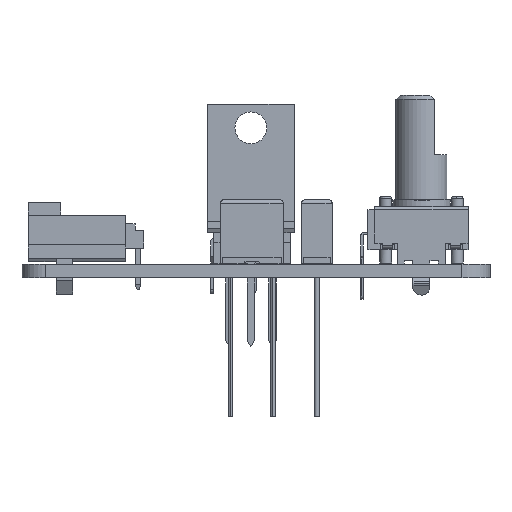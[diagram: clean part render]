
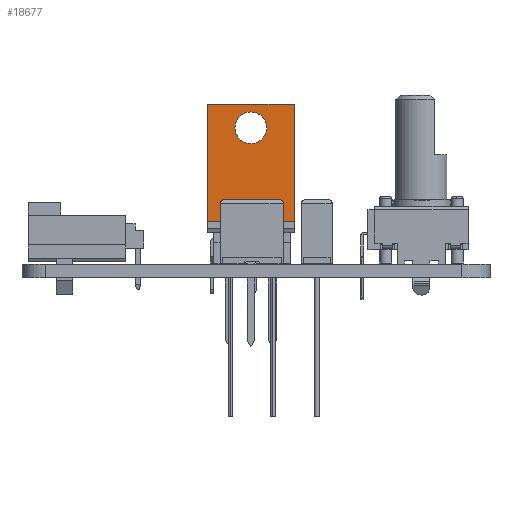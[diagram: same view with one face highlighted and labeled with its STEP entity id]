
A CAD part, left-side view. The second image highlights one B-rep face of the part: STEP entity #18677.
In plain terms, the highlighted planar face has unit normal (-1, 0, 0) as drawn and (0, 1, 0) by its records, which use the part's own axes.
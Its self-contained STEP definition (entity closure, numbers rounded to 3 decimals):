
#18122 = VERTEX_POINT('',#18123);
#18123 = CARTESIAN_POINT('',(-2.575,3.16,18.775));
#18129 = EDGE_CURVE('',#18130,#18122,#18132,.T.);
#18130 = VERTEX_POINT('',#18131);
#18131 = CARTESIAN_POINT('',(-2.575,3.16,5.));
#18132 = LINE('',#18133,#18134);
#18133 = CARTESIAN_POINT('',(-2.575,3.16,5.));
#18134 = VECTOR('',#18135,1.);
#18135 = DIRECTION('',(0.,0.,1.));
#18188 = VERTEX_POINT('',#18189);
#18189 = CARTESIAN_POINT('',(7.655,3.16,5.));
#18195 = EDGE_CURVE('',#18188,#18196,#18198,.T.);
#18196 = VERTEX_POINT('',#18197);
#18197 = CARTESIAN_POINT('',(7.655,3.16,18.775));
#18198 = LINE('',#18199,#18200);
#18199 = CARTESIAN_POINT('',(7.655,3.16,5.));
#18200 = VECTOR('',#18201,1.);
#18201 = DIRECTION('',(0.,0.,1.));
#18220 = EDGE_CURVE('',#18130,#18188,#18221,.T.);
#18221 = LINE('',#18222,#18223);
#18222 = CARTESIAN_POINT('',(-2.575,3.16,5.));
#18223 = VECTOR('',#18224,1.);
#18224 = DIRECTION('',(1.,0.,0.));
#18677 = ADVANCED_FACE('',(#18678,#18689),#18700,.T.);
#18678 = FACE_BOUND('',#18679,.T.);
#18679 = EDGE_LOOP('',(#18680,#18681,#18687,#18688));
#18680 = ORIENTED_EDGE('',*,*,#18129,.T.);
#18681 = ORIENTED_EDGE('',*,*,#18682,.T.);
#18682 = EDGE_CURVE('',#18122,#18196,#18683,.T.);
#18683 = LINE('',#18684,#18685);
#18684 = CARTESIAN_POINT('',(-2.575,3.16,18.775));
#18685 = VECTOR('',#18686,1.);
#18686 = DIRECTION('',(1.,0.,0.));
#18687 = ORIENTED_EDGE('',*,*,#18195,.F.);
#18688 = ORIENTED_EDGE('',*,*,#18220,.F.);
#18689 = FACE_BOUND('',#18690,.T.);
#18690 = EDGE_LOOP('',(#18691));
#18691 = ORIENTED_EDGE('',*,*,#18692,.T.);
#18692 = EDGE_CURVE('',#18693,#18693,#18695,.T.);
#18693 = VERTEX_POINT('',#18694);
#18694 = CARTESIAN_POINT('',(4.408,3.16,16.005));
#18695 = CIRCLE('',#18696,1.868);
#18696 = AXIS2_PLACEMENT_3D('',#18697,#18698,#18699);
#18697 = CARTESIAN_POINT('',(2.54,3.16,16.005));
#18698 = DIRECTION('',(0.,-1.,0.));
#18699 = DIRECTION('',(1.,0.,0.));
#18700 = PLANE('',#18701);
#18701 = AXIS2_PLACEMENT_3D('',#18702,#18703,#18704);
#18702 = CARTESIAN_POINT('',(-2.575,3.16,5.));
#18703 = DIRECTION('',(0.,1.,0.));
#18704 = DIRECTION('',(1.,0.,0.));
